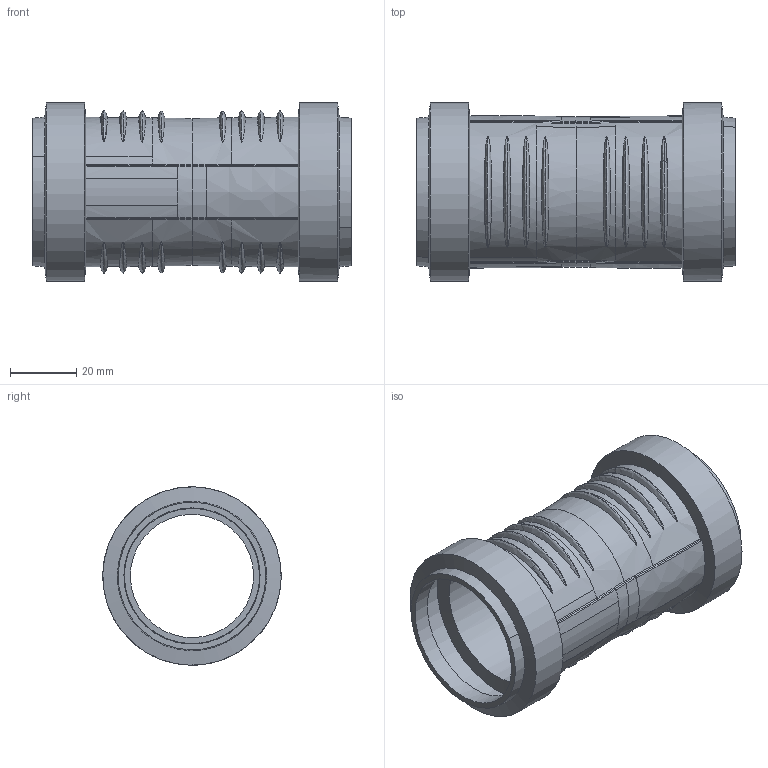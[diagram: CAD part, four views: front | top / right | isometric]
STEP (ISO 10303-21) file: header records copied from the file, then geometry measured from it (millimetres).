
FILE_DESCRIPTION(/* description */ (''),/* implementation_level */ '2;1');
FILE_NAME(/* name */ 'C:\Planerdaten\Export PLA\390.116.14.1\stp\390116.stp',/* time_stamp */ '2022-03-31T11:54:22+02:00',/* author */ ('JANAN'),/* organization */ (''),/* preprocessor_version */ 'ST-DEVELOPER v16.13',/* originating_system */ 'Autodesk Inventor 2018',/* authorisation */ '');
FILE_SCHEMA (('AUTOMOTIVE_DESIGN { 1 0 10303 214 3 1 1 }'));
Length unit declared in the file: millimetre
Products named in the file (1): tmpFA2.tmp
Bounding box: 96 x 53.69 x 53.69 mm (x, y, z)
Volume: 33100.7 mm3; surface area: 33791.3 mm2
Topology: 1 solids, 1 shells, 133 faces, 290 edges, 177 vertices
Faces by surface type: bspline 112, cylinder 9, cone 8, plane 4
Full cylindrical faces by diameter (mm): 37.1 x1, 40.7 x2, 41 x2, 50.1 x2, 53.7 x2
Entity records: 15305 total; most frequent: CARTESIAN_POINT 12689, ORIENTED_EDGE 544, DIRECTION 423, EDGE_CURVE 272, AXIS2_PLACEMENT_3D 208, VERTEX_POINT 176, EDGE_LOOP 170, CIRCLE 158
